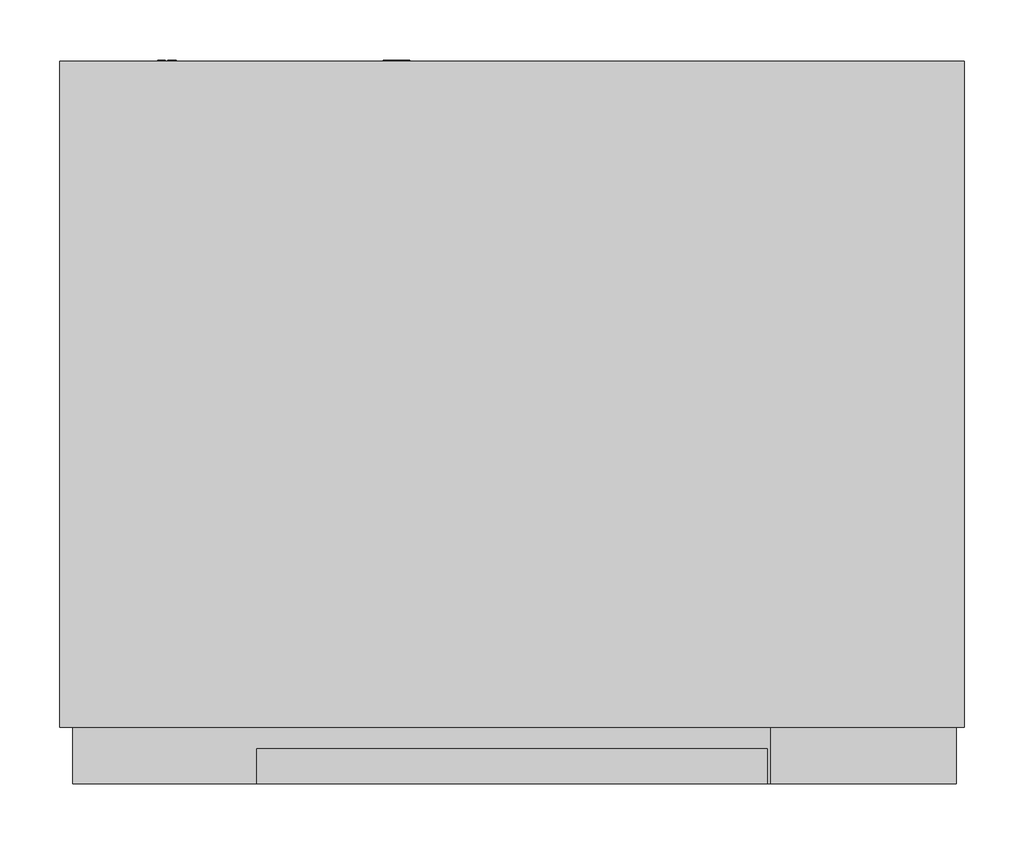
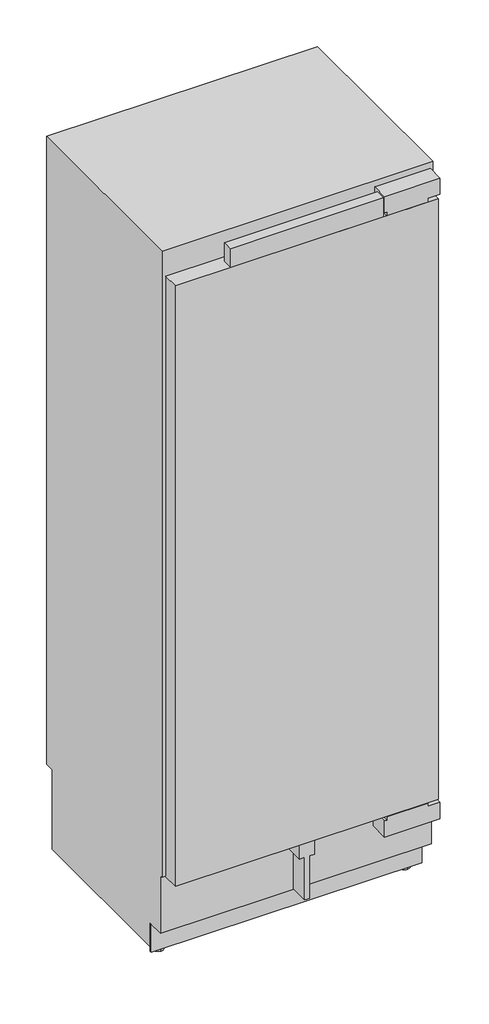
# Not in any storey: 1 proxy.
"""IFC4 building model written with IfcOpenShell, lengths in millimetres."""

from ifc_helpers import new_model, si_unit, origin, place, context, project, spatial, transform, mapped, element, save
from components import specialty_equipment_89827a06

model = new_model("IFC4")

# Units and contexts
model_context = context("Model", 3, world=origin())
ifc_project = project(units=[si_unit("LENGTHUNIT", "METRE", prefix="MILLI")], contexts=[model_context])

# Site, building
site = spatial("IfcSite", under=ifc_project)
building = spatial("IfcBuilding", under=site)

# Proxy
placement = place(None, origin())
specialty_equipment_shape = specialty_equipment_89827a06(model_context)
element("IfcBuildingElementProxy", 1, Name="11503330_USA_F2802Vi : 37280201_USA_11503330_F2802Vi", ObjectType="11503330_USA_F2802Vi : 37280201_USA_11503330_F2802Vi", at=placement, inside=building, context=model_context, shape_type="MappedRepresentation", body=[
    mapped(specialty_equipment_shape, transform((0.0, 0.0, 0.0), x_axis=(1.0, 0.0, 0.0), y_axis=(0.0, 1.0, 0.0), z_axis=(0.0, 0.0, 1.0))),
])

save(model, "model.ifc")
